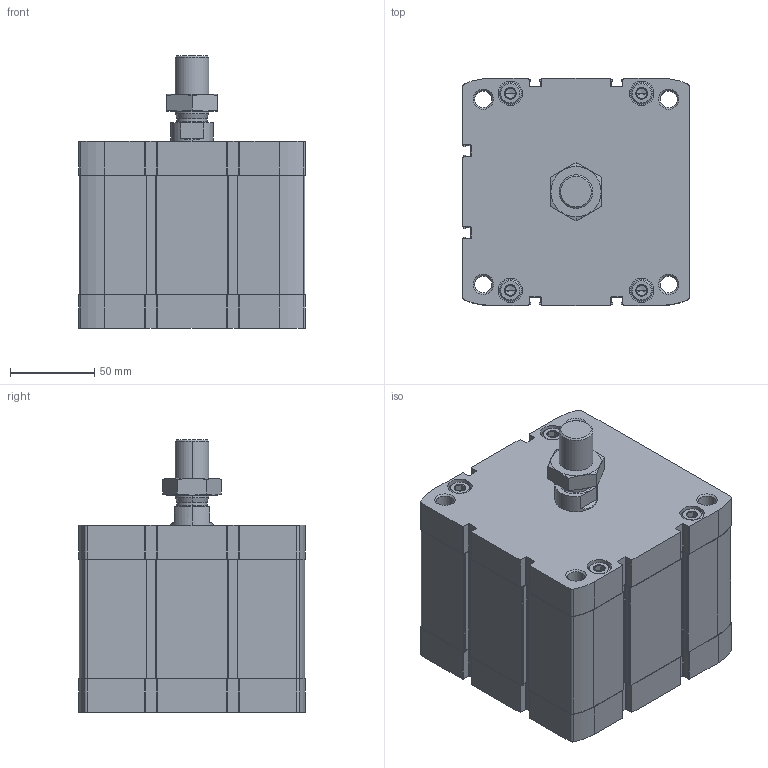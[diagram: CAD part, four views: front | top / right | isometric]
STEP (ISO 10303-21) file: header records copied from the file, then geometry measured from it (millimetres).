
FILE_DESCRIPTION (( 'STEP AP203' ), '1' );
FILE_NAME ('CCN125-30M.STEP', '2020-06-05T19:22:02', ( '' ), ( '' ), 'SwSTEP 2.0', 'SolidWorks 2019', '' );
FILE_SCHEMA (( 'CONFIG_CONTROL_DESIGN' ));
Length unit declared in the file: millimetre
Products named in the file (1): CCN125-30M
Bounding box: 134.6 x 134.6 x 162 mm (x, y, z)
Volume: 1589402 mm3; surface area: 220727.3 mm2
Topology: 3 solids, 3 shells, 555 faces, 1412 edges, 886 vertices
Faces by surface type: plane 275, cylinder 196, cone 80, torus 4
Entity records: 18163 total; most frequent: CARTESIAN_POINT 4452, DIRECTION 2966, ORIENTED_EDGE 2792, EDGE_CURVE 1396, AXIS2_PLACEMENT_3D 1092, VERTEX_POINT 886, LINE 782, VECTOR 782
